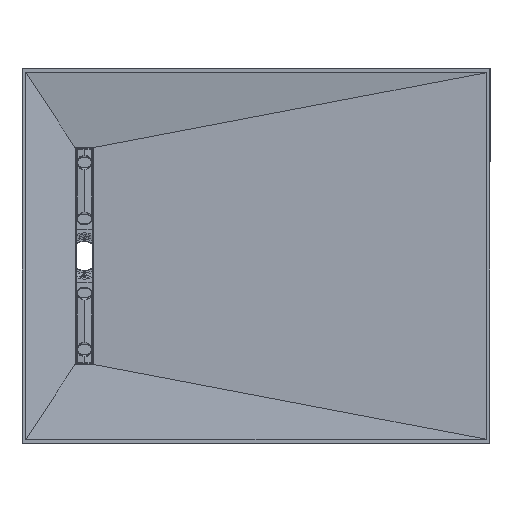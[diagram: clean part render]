
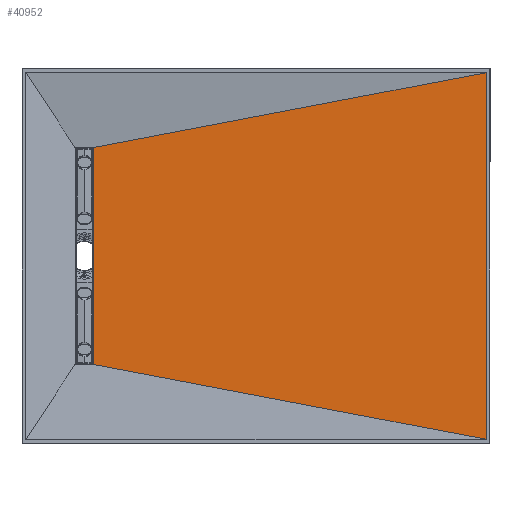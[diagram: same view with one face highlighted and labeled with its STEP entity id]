
A CAD part, top view. The second image highlights one B-rep face of the part: STEP entity #40952.
In plain terms, the highlighted planar face has unit normal (-0.024, 0, 1).
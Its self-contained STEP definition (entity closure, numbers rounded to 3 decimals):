
#4905=PLANE('',#43704);
#5379=FACE_OUTER_BOUND('',#7986,.T.);
#7986=EDGE_LOOP('',(#27718,#27719,#27720,#27721,#27722,#27723));
#12895=LINE('',#59611,#15227);
#12902=LINE('',#59636,#15234);
#12903=LINE('',#59639,#15235);
#12904=LINE('',#59640,#15236);
#15227=VECTOR('',#48238,10.);
#15234=VECTOR('',#48265,10.);
#15235=VECTOR('',#48268,10.);
#15236=VECTOR('',#48269,10.);
#17549=ELLIPSE('',#43686,6.002,6.);
#17554=ELLIPSE('',#43700,6.002,6.);
#17973=VERTEX_POINT('',#59576);
#17977=VERTEX_POINT('',#59583);
#17986=VERTEX_POINT('',#59609);
#17992=VERTEX_POINT('',#59627);
#17994=VERTEX_POINT('',#59634);
#17995=VERTEX_POINT('',#59638);
#21565=EDGE_CURVE('',#17977,#17973,#17549,.T.);
#21578=EDGE_CURVE('',#17977,#17986,#12895,.F.);
#21586=EDGE_CURVE('',#17986,#17992,#17554,.F.);
#21591=EDGE_CURVE('',#17994,#17992,#12902,.T.);
#21592=EDGE_CURVE('',#17995,#17973,#12903,.T.);
#21593=EDGE_CURVE('',#17995,#17994,#12904,.T.);
#27718=ORIENTED_EDGE('',*,*,#21592,.T.);
#27719=ORIENTED_EDGE('',*,*,#21565,.F.);
#27720=ORIENTED_EDGE('',*,*,#21578,.T.);
#27721=ORIENTED_EDGE('',*,*,#21586,.T.);
#27722=ORIENTED_EDGE('',*,*,#21591,.F.);
#27723=ORIENTED_EDGE('',*,*,#21593,.F.);
#40952=ADVANCED_FACE('',(#5379),#4905,.F.);
#43686=AXIS2_PLACEMENT_3D('',#59585,#48213,#48214);
#43700=AXIS2_PLACEMENT_3D('',#59628,#48255,#48256);
#43704=AXIS2_PLACEMENT_3D('',#59637,#48266,#48267);
#48213=DIRECTION('center_axis',(-0.023,0.,
1.));
#48214=DIRECTION('ref_axis',(1.,0.,0.023));
#48238=DIRECTION('',(0.,1.,0.));
#48255=DIRECTION('center_axis',(-0.023,0.,
1.));
#48256=DIRECTION('ref_axis',(1.,0.,0.023));
#48265=DIRECTION('',(-0.982,0.187,-0.023));
#48266=DIRECTION('center_axis',(0.023,0.,
-1.));
#48267=DIRECTION('ref_axis',(-1.,0.,-0.023));
#48268=DIRECTION('',(-0.982,-0.187,-0.023));
#48269=DIRECTION('',(0.,-1.,0.));
#59576=CARTESIAN_POINT('',(-1303.87,972.086,-30.076));
#59583=CARTESIAN_POINT('',(-1300.3,966.6,-29.992));
#59585=CARTESIAN_POINT('Origin',(-1306.3,966.6,-30.133));
#59609=CARTESIAN_POINT('',(-1300.3,272.6,-29.992));
#59611=CARTESIAN_POINT('',(-1300.3,1094.6,-29.992));
#59627=CARTESIAN_POINT('',(-1303.87,267.114,-30.076));
#59628=CARTESIAN_POINT('Origin',(-1306.3,272.6,-30.133));
#59634=CARTESIAN_POINT('',(-22.7,22.7,0.));
#59636=CARTESIAN_POINT('',(-132.516,43.65,-2.578));
#59637=CARTESIAN_POINT('Origin',(-22.7,1216.5,0.));
#59638=CARTESIAN_POINT('',(-22.7,1216.5,0.));
#59639=CARTESIAN_POINT('',(-745.303,1078.646,-16.963));
#59640=CARTESIAN_POINT('',(-22.7,918.05,0.));
